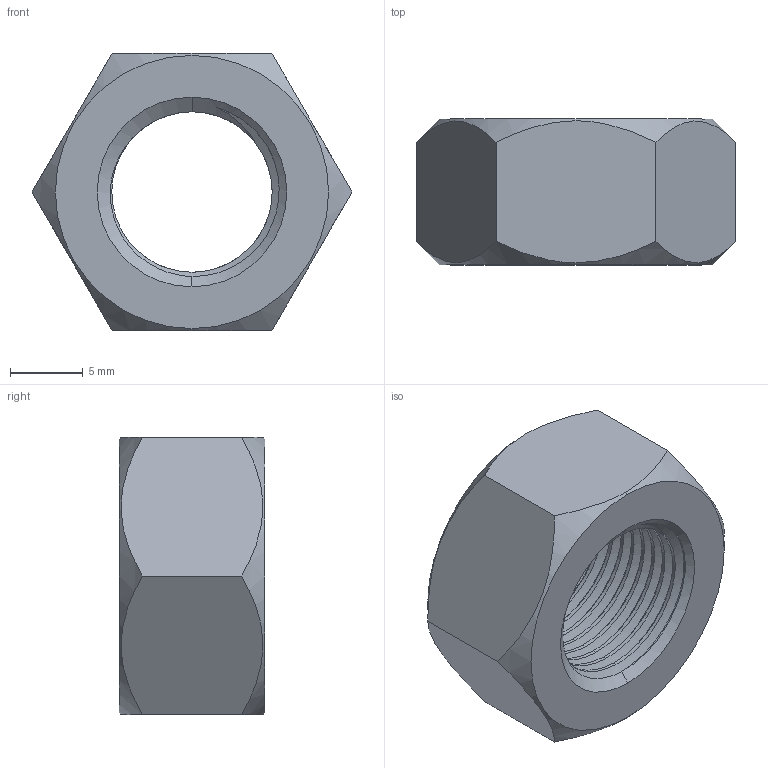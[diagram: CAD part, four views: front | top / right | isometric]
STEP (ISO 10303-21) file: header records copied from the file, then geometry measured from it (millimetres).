
FILE_DESCRIPTION (( 'STEP AP203' ), '1' );
FILE_NAME ('TANRM-304-M12x1.STEP', '2026-08-21T14:15:57', ( '' ), ( '' ), 'SwSTEP 2.0', 'SolidWorks 2020', '' );
FILE_SCHEMA (( 'CONFIG_CONTROL_DESIGN' ));
Length unit declared in the file: millimetre
Products named in the file (1): TANRM-304-M12x1
Bounding box: 21.94 x 10 x 19 mm (x, y, z)
Volume: 2040.4 mm3; surface area: 1557.8 mm2
Topology: 1 solids, 1 shells, 38 faces, 106 edges, 70 vertices
Faces by surface type: cylinder 19, cone 8, plane 8, bspline 3
Entity records: 3408 total; most frequent: CARTESIAN_POINT 2510, ORIENTED_EDGE 212, DIRECTION 128, EDGE_CURVE 106, VERTEX_POINT 70, AXIS2_PLACEMENT_3D 48, EDGE_LOOP 40, ADVANCED_FACE 38
